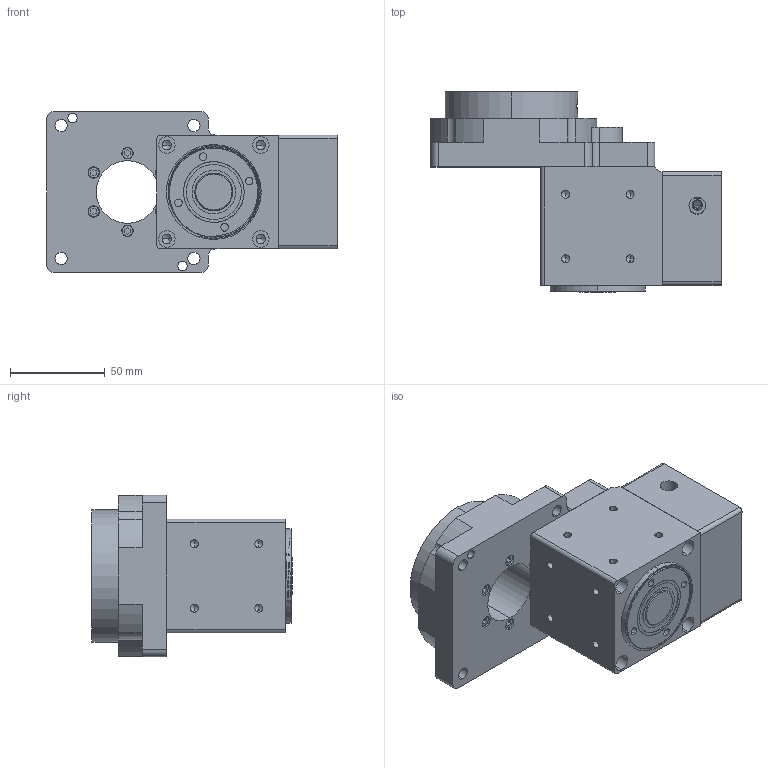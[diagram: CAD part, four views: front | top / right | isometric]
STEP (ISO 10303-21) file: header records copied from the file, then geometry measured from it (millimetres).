
FILE_DESCRIPTION (( 'STEP AP203' ), '1' );
FILE_NAME ('NTFA085-5-14-50-70.STEP', '2024-06-25T06:56:30', ( 'Windows User' ), ( 'P R C' ), 'SwSTEP 2.0', 'SolidWorks 2016', '' );
FILE_SCHEMA (( 'CONFIG_CONTROL_DESIGN' ));
Length unit declared in the file: millimetre
Products named in the file (12): 標杶; 怀堤粣; 綴楊擘1; NTFA85-5K加转向器一体(输入14-30 50-3 4-M4-70)-01; 20-32-5蚐猾; 6003_Rolling bearings 6003 GB 276-94; NTFA85-5K加转向器一体(输入14-30 50-3 4-M4-70)-0256; 褲极; NTFA085-5-14-50-70; 输入轴; 蹟譫; 30204_Rolling bearings 30204 GB 297-94
Assembly tree (14 placements, depth 3):
  NTFA085-5-14-50-70
    NTFA85-5K加转向器一体(输入14-30 50-3 4-M4-70)-01
    NTFA85-5K加转向器一体(输入14-30 50-3 4-M4-70)-0256
      6003_Rolling bearings 6003 GB 276-94
      褲极
      输入轴
      蹟譫  x2
      30204_Rolling bearings 30204 GB 297-94  x2
      標杶
      怀堤粣
      綴楊擘1
      20-32-5蚐猾  x2
Bounding box: 153 x 105.5 x 85 mm (x, y, z)
Volume: 461196.4 mm3; surface area: 152360.6 mm2
Topology: 22 solids, 28 shells, 1709 faces, 5237 edges, 3285 vertices
Faces by surface type: plane 678, bspline 469, cylinder 373, cone 189
Entity records: 70421 total; most frequent: CARTESIAN_POINT 32820, ORIENTED_EDGE 8330, DIRECTION 6545, EDGE_CURVE 4165, VERTEX_POINT 2759, AXIS2_PLACEMENT_3D 2333, VECTOR 1879, LINE 1879
